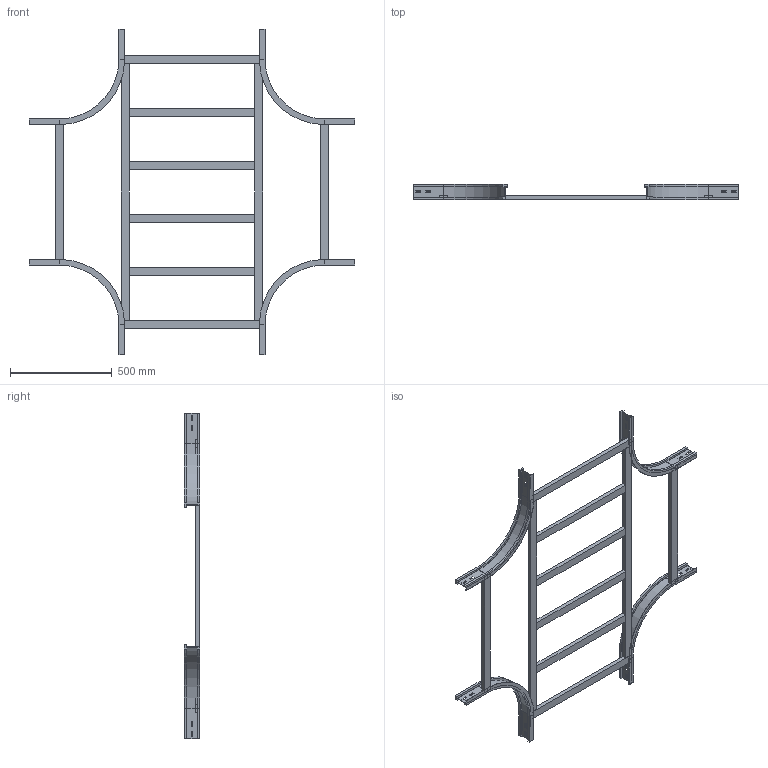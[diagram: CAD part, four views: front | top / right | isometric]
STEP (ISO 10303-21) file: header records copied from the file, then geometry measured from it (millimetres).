
FILE_DESCRIPTION (( 'STEP AP214' ), '1' );
FILE_NAME ('17S3C700.step', '2025-02-21T16:18:41', ( '' ), ( '' ), 'SwSTEP 2.0', 'SolidWorks 2023', '' );
FILE_SCHEMA (( 'AUTOMOTIVE_DESIGN' ));
Length unit declared in the file: millimetre
Products named in the file (5): LONGH.INTERNO 90°_H75_R300; 17S3C700; TRAVERSINO_LONG._R300+700; TRAVERSINO_700; TRAVERSINO_INTERMEDIO_X_R300+700
Assembly tree (14 placements, depth 2):
  17S3C700
    LONGH.INTERNO 90°_H75_R300  x4
    TRAVERSINO_700  x4
    TRAVERSINO_INTERMEDIO_X_R300+700  x4
    TRAVERSINO_LONG._R300+700  x2
Bounding box: 1600 x 75 x 1600 mm (x, y, z)
Volume: 7811621.7 mm3; surface area: 1719528.8 mm2
Topology: 14 solids, 14 shells, 276 faces, 648 edges, 400 vertices
Faces by surface type: plane 252, cylinder 24
Entity records: 2242 total; most frequent: CARTESIAN_POINT 361, DIRECTION 358, ORIENTED_EDGE 336, EDGE_CURVE 168, LINE 156, VECTOR 156, VERTEX_POINT 104, AXIS2_PLACEMENT_3D 101
